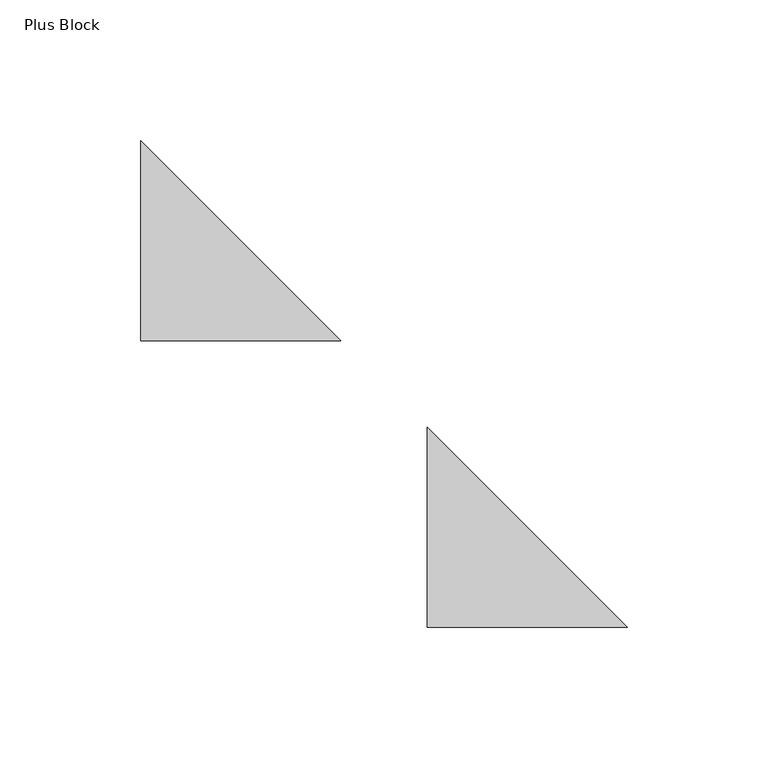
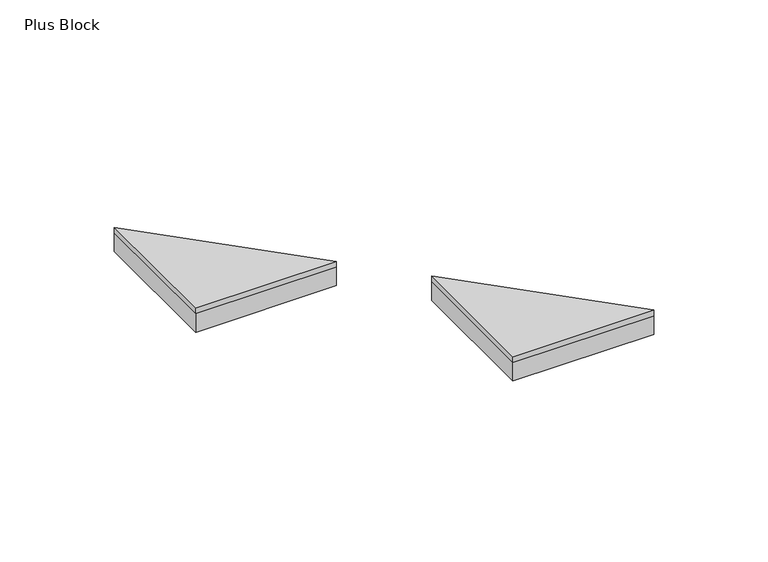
"""IFC4 building model written with IfcOpenShell, lengths in millimetres: proxy geometry, FilzFelt_Plus_Block : Plus Block."""

import ifcopenshell
import ifcopenshell.guid

model = None  # the IFC model being written
_history = None  # IfcOwnerHistory: only IFC2X3 demands one
_inside = {}  # id of a spatial element -> (the spatial element, [elements in it])
_under = {}  # id of a project, library or spatial element -> (it, [spatial elements below it])
_declared = {}  # id of a project -> (the project, [libraries it declares])
_typed = {}  # id of a type object -> (the type object, [elements of that type])
_made_of = {}  # id of a material, layer set ... -> (it, [elements and type objects made of it])


def new_model(schema):
    """Start an empty IFC model of exactly this schema.

    Asked for "IFC4X3", IfcOpenShell would pick the latest addendum, in which some entities
    have other attributes; the version numbers below select the first issue.
    IFC2X3 requires an IfcOwnerHistory on every rooted entity: one is made here for all.
    """
    global model, _history
    if schema == "IFC4X3":
        model = ifcopenshell.file(schema_version=(4, 3, 0, 0))
    else:
        model = ifcopenshell.file(schema=schema)
    _inside.clear()
    _under.clear()
    _declared.clear()
    _typed.clear()
    _made_of.clear()
    _history = None
    if model.schema == "IFC2X3":
        org = make("IfcOrganization", Name="unknown")
        user = make(
            "IfcPersonAndOrganization",
            ThePerson=make("IfcPerson", FamilyName="unknown"),
            TheOrganization=org,
        )
        app = make(
            "IfcApplication",
            ApplicationDeveloper=org,
            Version="unknown",
            ApplicationFullName="unknown",
            ApplicationIdentifier="unknown",
        )
        _history = make(
            "IfcOwnerHistory",
            OwningUser=user,
            OwningApplication=app,
            ChangeAction="ADDED",
            CreationDate=0,
        )
    return model


def make(cls, **values):
    """One entity of the class cls with the attributes given. An attribute that is None is left unset."""
    return model.create_entity(
        cls, **{name: value for name, value in values.items() if value is not None}
    )


def rooted(cls, **values):
    """An entity with a GlobalId (a new one), such as an element, a storey or a relation."""
    return make(cls, GlobalId=ifcopenshell.guid.new(), OwnerHistory=_history, **values)


def si_unit(unit_type, name, prefix=None):
    """IfcSIUnit, for example si_unit("LENGTHUNIT", "METRE", prefix="MILLI")."""
    return make("IfcSIUnit", UnitType=unit_type, Prefix=prefix, Name=name)


def assignment(units):
    """IfcUnitAssignment: the units of a project."""
    return None if units is None else make("IfcUnitAssignment", Units=units)


def point(xyz):
    """IfcCartesianPoint."""
    return None if xyz is None else make("IfcCartesianPoint", Coordinates=xyz)


def direction(xyz):
    """IfcDirection."""
    return None if xyz is None else make("IfcDirection", DirectionRatios=xyz)


def frame(location, z_axis=None, x_axis=None):
    """IfcAxis2Placement3D, a coordinate frame: its origin and axes. An axis left out is left unset."""
    return make(
        "IfcAxis2Placement3D",
        Location=point(location),
        Axis=direction(z_axis),
        RefDirection=direction(x_axis),
    )


def origin():
    """The frame at (0, 0, 0) with its axes left unset."""
    return frame((0.0, 0.0, 0.0))


def origin_with_axes():
    """The frame at (0, 0, 0) with the z axis (0, 0, 1) and the x axis (1, 0, 0) written out."""
    return frame((0.0, 0.0, 0.0), z_axis=(0.0, 0.0, 1.0), x_axis=(1.0, 0.0, 0.0))


def place(relative_to, where):
    """IfcLocalPlacement: puts the frame where relative to a parent placement (None: the world)."""
    return make(
        "IfcLocalPlacement", PlacementRelTo=relative_to, RelativePlacement=where
    )


def context(
    kind, dimensions, precision=None, world=None, true_north=None, identifier=None
):
    """IfcGeometricRepresentationContext, for example the 3D "Model" context."""
    return make(
        "IfcGeometricRepresentationContext",
        ContextIdentifier=identifier,
        ContextType=kind,
        CoordinateSpaceDimension=dimensions,
        Precision=precision,
        WorldCoordinateSystem=world,
        TrueNorth=true_north,
    )


def project(units=None, contexts=None):
    """IfcProject with its units and contexts."""
    return rooted(
        "IfcProject",
        Name="project",
        RepresentationContexts=contexts,
        UnitsInContext=assignment(units),
    )


def spatial(cls, under=None, at=None, **own):
    """A site, building, storey or space (cls), placed at a placement, below another one or the project."""
    s = rooted(cls, ObjectPlacement=at, **own)
    if under is not None:
        _under.setdefault(under.id(), (under, []))[1].append(s)
    return s


def polyline(points):
    """IfcPolyline through the points."""
    return make("IfcPolyline", Points=[point(p) for p in points])


def outline(outer, holes=None, kind="AREA"):
    """IfcArbitraryClosedProfileDef: a profile drawn as a closed curve; with holes, ...WithVoids."""
    if holes is None:
        return make("IfcArbitraryClosedProfileDef", ProfileType=kind, OuterCurve=outer)
    return make(
        "IfcArbitraryProfileDefWithVoids",
        ProfileType=kind,
        OuterCurve=outer,
        InnerCurves=holes,
    )


def extrude(swept, where, along, depth):
    """IfcExtrudedAreaSolid: the profile swept, set in the frame where, extruded along a direction by depth."""
    return make(
        "IfcExtrudedAreaSolid",
        SweptArea=swept,
        Position=where,
        ExtrudedDirection=direction(along),
        Depth=depth,
    )


def shape(context_of_items, identifier, shape_type, items):
    """IfcShapeRepresentation: the items that make up one representation, for example the "Body"."""
    return make(
        "IfcShapeRepresentation",
        ContextOfItems=context_of_items,
        RepresentationIdentifier=identifier,
        RepresentationType=shape_type,
        Items=items,
    )


def source(mapping_origin, context_of_items, identifier, shape_type, items):
    """IfcRepresentationMap: a shape defined once, which mapped items show again and again."""
    return make(
        "IfcRepresentationMap",
        MappingOrigin=mapping_origin,
        MappedRepresentation=shape(context_of_items, identifier, shape_type, items),
    )


def transform(
    local_origin,
    x_axis=None,
    y_axis=None,
    z_axis=None,
    scale=None,
    scale2=None,
    scale3=None,
    uniform=True,
):
    """IfcCartesianTransformationOperator3D, or its non-uniform kind. x_axis, y_axis, z_axis: its Axis1, 2, 3."""
    if uniform:
        return make(
            "IfcCartesianTransformationOperator3D",
            Axis1=direction(x_axis),
            Axis2=direction(y_axis),
            LocalOrigin=point(local_origin),
            Scale=scale,
            Axis3=direction(z_axis),
        )
    return make(
        "IfcCartesianTransformationOperator3DnonUniform",
        Axis1=direction(x_axis),
        Axis2=direction(y_axis),
        LocalOrigin=point(local_origin),
        Scale=scale,
        Axis3=direction(z_axis),
        Scale2=scale2,
        Scale3=scale3,
    )


def mapped(mapping_source, mapping_target):
    """IfcMappedItem: shows the shape of a source again, moved by a transform."""
    return make(
        "IfcMappedItem", MappingSource=mapping_source, MappingTarget=mapping_target
    )


def made_of(thing, what):
    """Note that an element or type object is made of a material, layer set ...; save() writes the relation."""
    if what is not None:
        _made_of.setdefault(what.id(), (what, []))[1].append(thing)
    return thing


def element(
    cls,
    number,
    at=None,
    inside=None,
    cuts=None,
    type_object=None,
    material=None,
    context=None,
    identifier="Body",
    shape_type=None,
    held_by="IfcProductDefinitionShape",
    body=None,
    shapes=None,
    **own,
):
    """One element of the class cls, such as IfcWall. Its Tag is "e" and its number.

    at: its placement. inside: the storey or other place that contains it. cuts: it is an
    opening in that element (IfcRelVoidsElement). A single representation is given by context,
    identifier, shape_type and body (its items); several are given by shapes. held_by: the class
    of the entity that holds the representations. save() writes the other relations.
    """
    e = rooted(cls, Tag="e%d" % number, ObjectPlacement=at, **own)
    if body is not None:
        shapes = [shape(context, identifier, shape_type, body)]
    if shapes is not None:
        e.Representation = make(held_by, Representations=shapes)
    if inside is not None:
        _inside.setdefault(inside.id(), (inside, []))[1].append(e)
    if cuts is not None:
        rooted(
            "IfcRelVoidsElement", RelatingBuildingElement=cuts, RelatedOpeningElement=e
        )
    if type_object is not None:
        _typed.setdefault(type_object.id(), (type_object, []))[1].append(e)
    return made_of(e, material)


def aggregate(whole, parts):
    """IfcRelAggregates: a whole, such as a stair, and the parts it consists of."""
    return rooted("IfcRelAggregates", RelatingObject=whole, RelatedObjects=parts)


def save(model, path):
    """Write the relations noted so far, then the file.

    IfcRelAggregates (storeys below a building ...), IfcRelContainedInSpatialStructure (elements
    in a storey), IfcRelDefinesByType, IfcRelAssociatesMaterial and IfcRelDeclares: one each for
    every whole, place, type object, material and project.
    """
    for whole, parts in _under.values():
        aggregate(whole, parts)
    for where, things in _inside.values():
        rooted(
            "IfcRelContainedInSpatialStructure",
            RelatedElements=things,
            RelatingStructure=where,
        )
    for kind, things in _typed.values():
        rooted("IfcRelDefinesByType", RelatedObjects=things, RelatingType=kind)
    for what, things in _made_of.values():
        rooted("IfcRelAssociatesMaterial", RelatedObjects=things, RelatingMaterial=what)
    for by, libraries in _declared.values():
        rooted("IfcRelDeclares", RelatingContext=by, RelatedDefinitions=libraries)
    model.write(path)


def plus_block_34edbe92(model_context):
    return source(origin(), model_context, "Body", "SweptSolid", [
        extrude(outline(polyline([(20.2519994, -152.5), (-50.8333333, -152.5), (-50.8333333, -81.4146673), (20.2519994, -152.5)])), frame((0.0, 0.0, 10.0210937), z_axis=(0.0, 0.0, 1.0), x_axis=(1.0, 0.0, 0.0)), (0.0, 0.0, 1.0), 2.9765625),
        extrude(outline(polyline([(-81.4146673, -50.8333333), (-152.5, -50.8333333), (-152.5, 20.2519994), (-81.4146673, -50.8333333)])), frame((0.0, 0.0, 10.0210937), z_axis=(0.0, 0.0, 1.0), x_axis=(1.0, 0.0, 0.0)), (0.0, 0.0, 1.0), 2.9765625),
        extrude(outline(polyline([(-152.5, -50.8333333), (-152.5, 20.2519994), (-81.4146673, -50.8333333), (-152.5, -50.8333333)])), origin_with_axes(), (0.0, 0.0, 1.0), 10.0210938),
        extrude(outline(polyline([(20.2519994, -152.5), (-50.8333333, -152.5), (-50.8333333, -81.4146673), (20.2519994, -152.5)])), origin_with_axes(), (0.0, 0.0, 1.0), 10.0210938),
    ])


if __name__ == "__main__":
    model = new_model("IFC4")
    model_context = context("Model", 3, world=origin())
    ifc_project = project(units=[si_unit("LENGTHUNIT", "METRE", prefix="MILLI")], contexts=[model_context])
    site = spatial("IfcSite", under=ifc_project)
    building = spatial("IfcBuilding", under=site)
    placement = place(None, origin())
    plus_block_shape = plus_block_34edbe92(model_context)
    element("IfcBuildingElementProxy", 1, Name="FilzFelt_Plus_Block : Plus Block", ObjectType="FilzFelt_Plus_Block : Plus Block", at=placement, inside=building, context=model_context, shape_type="MappedRepresentation", body=[
        mapped(plus_block_shape, transform((0.0, 0.0, 0.0), x_axis=(1.0, 0.0, 0.0), y_axis=(0.0, 1.0, 0.0), z_axis=(0.0, 0.0, 1.0))),
    ])
    save(model, "model.ifc")
